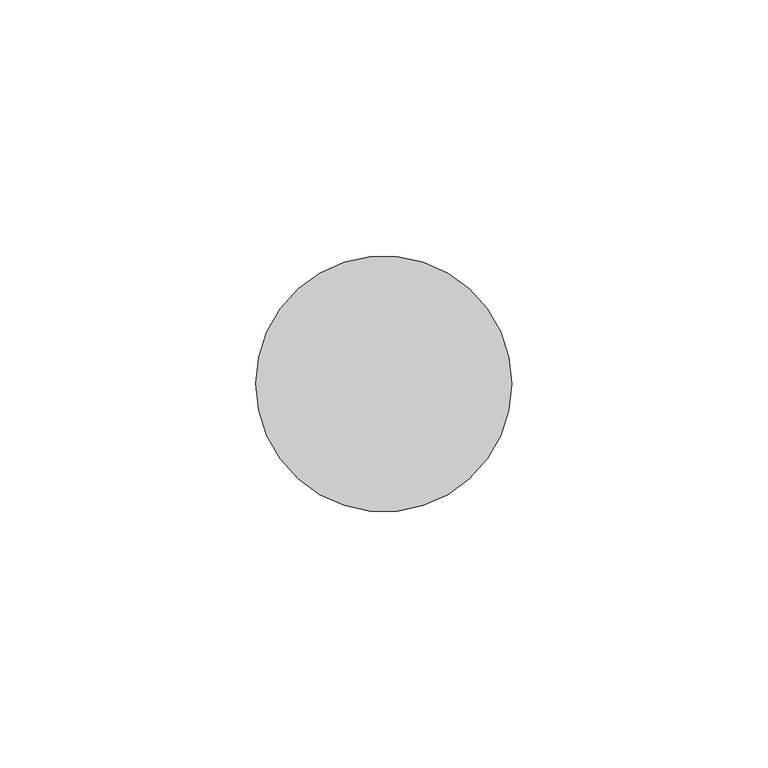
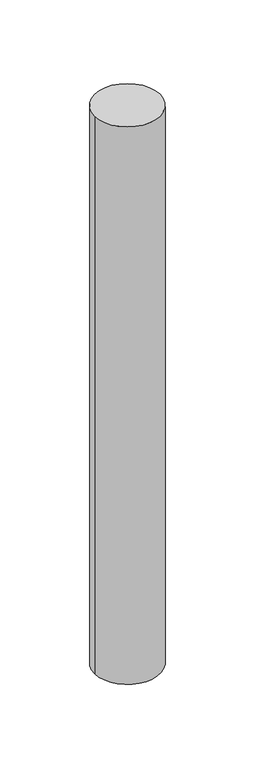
"""IFC4 building model written with IfcOpenShell, lengths in millimetres: member geometry, Импост круглого сечения : Радиус 25мм."""

from ifc_helpers import new_model, si_unit, point, frame, origin, origin_2d, place, context, project, spatial, circle_curve, trimmed, segment, composite_curve, outline, extrude, source, transform, mapped, element, save


def member_5490ff31(model_context):
    return source(origin(), model_context, "Body", "SweptSolid", [
        extrude(outline(composite_curve([segment(trimmed(circle_curve(origin_2d(), 25.0), [point((25.0, 0.0))], [point((-25.0, 0.0))], False, "CARTESIAN"), True, "CONTINUOUS"), segment(trimmed(circle_curve(origin_2d(), 25.0), [point((-25.0, 0.0))], [point((25.0, 0.0))], False, "CARTESIAN"), True, "CONTINUOUS")], self_intersect=False)), frame((0.0, 0.0, -450.0), z_axis=(0.0, 0.0, 1.0), x_axis=(1.0, 0.0, 0.0)), (0.0, 0.0, 1.0), 450.0),
    ])


if __name__ == "__main__":
    model = new_model("IFC4")
    model_context = context("Model", 3, world=origin())
    ifc_project = project(units=[si_unit("LENGTHUNIT", "METRE", prefix="MILLI")], contexts=[model_context])
    site = spatial("IfcSite", under=ifc_project)
    building = spatial("IfcBuilding", under=site)
    placement = place(None, origin())
    member_shape = member_5490ff31(model_context)
    element("IfcMember", 1, ObjectType="Импост круглого сечения : Радиус 25мм", at=placement, inside=building, context=model_context, shape_type="MappedRepresentation", body=[
        mapped(member_shape, transform((0.0, 0.0, 0.0), x_axis=(1.0, 0.0, 0.0), y_axis=(0.0, 1.0, 0.0), z_axis=(0.0, 0.0, 1.0))),
    ])
    save(model, "model.ifc")
